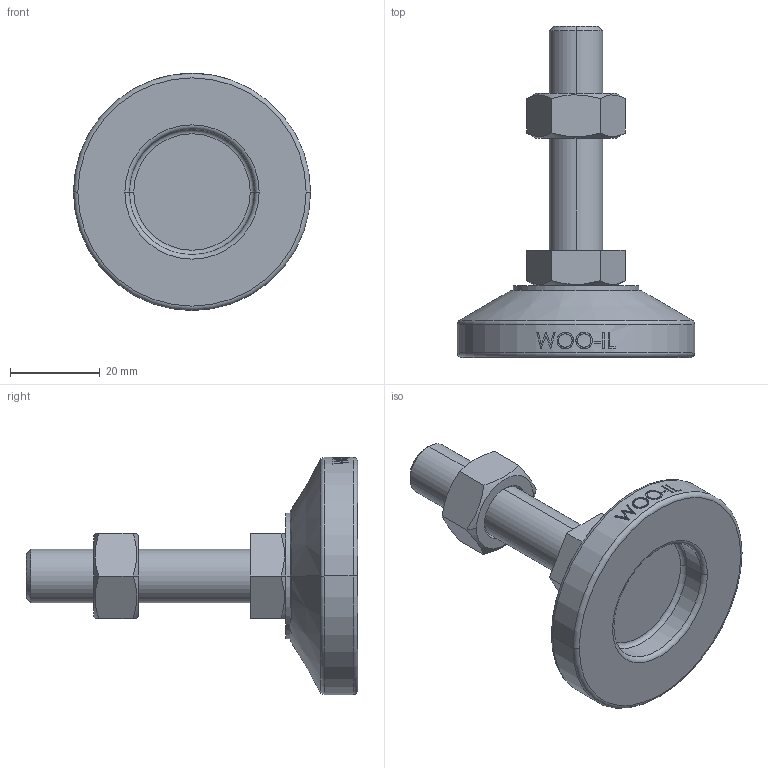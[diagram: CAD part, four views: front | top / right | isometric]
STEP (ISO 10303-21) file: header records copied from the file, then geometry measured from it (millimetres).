
FILE_DESCRIPTION (( 'STEP AP214' ), '1' );
FILE_NAME ('MF53-M12-50.step', '2021-02-03T08:16:50', ( '' ), ( '' ), 'SwSTEP 2.0', 'SolidWorks 2019', '' );
FILE_SCHEMA (( 'AUTOMOTIVE_DESIGN' ));
Length unit declared in the file: millimetre
Products named in the file (2): MF53-M12-50
Bounding box: 53 x 74 x 53 mm (x, y, z)
Volume: 33780.8 mm3; surface area: 10835.1 mm2
Topology: 3 solids, 3 shells, 106 faces, 243 edges, 154 vertices
Faces by surface type: plane 48, cylinder 18, bspline 16, cone 14, torus 10
Entity records: 4394 total; most frequent: CARTESIAN_POINT 2051, ORIENTED_EDGE 486, DIRECTION 439, EDGE_CURVE 243, AXIS2_PLACEMENT_3D 170, VERTEX_POINT 154, EDGE_LOOP 119, ADVANCED_FACE 106
